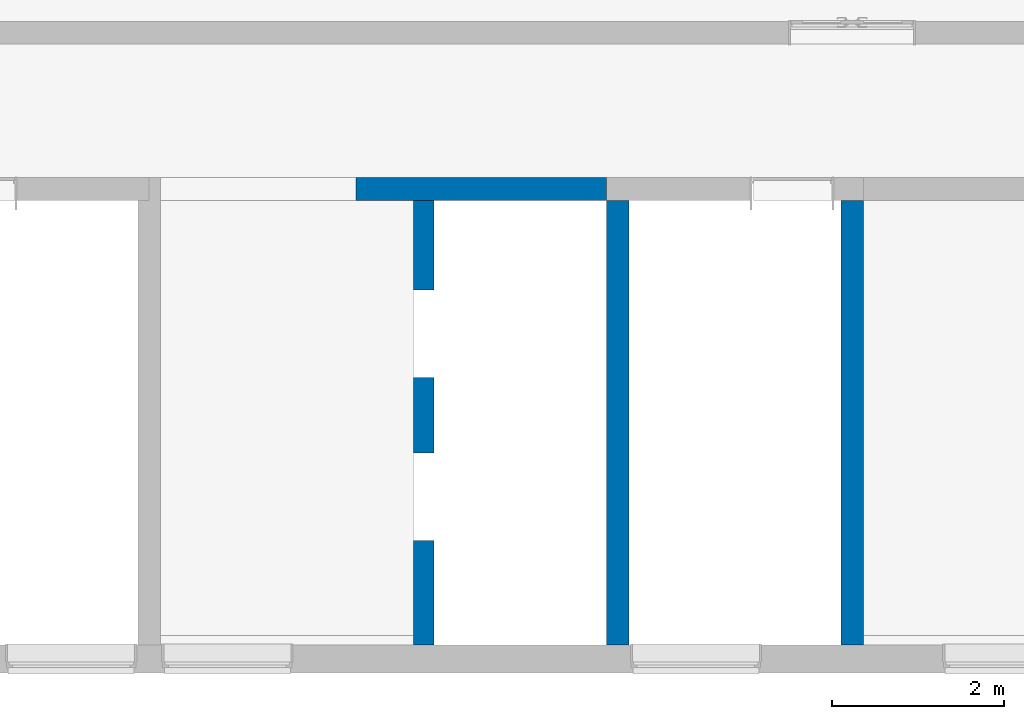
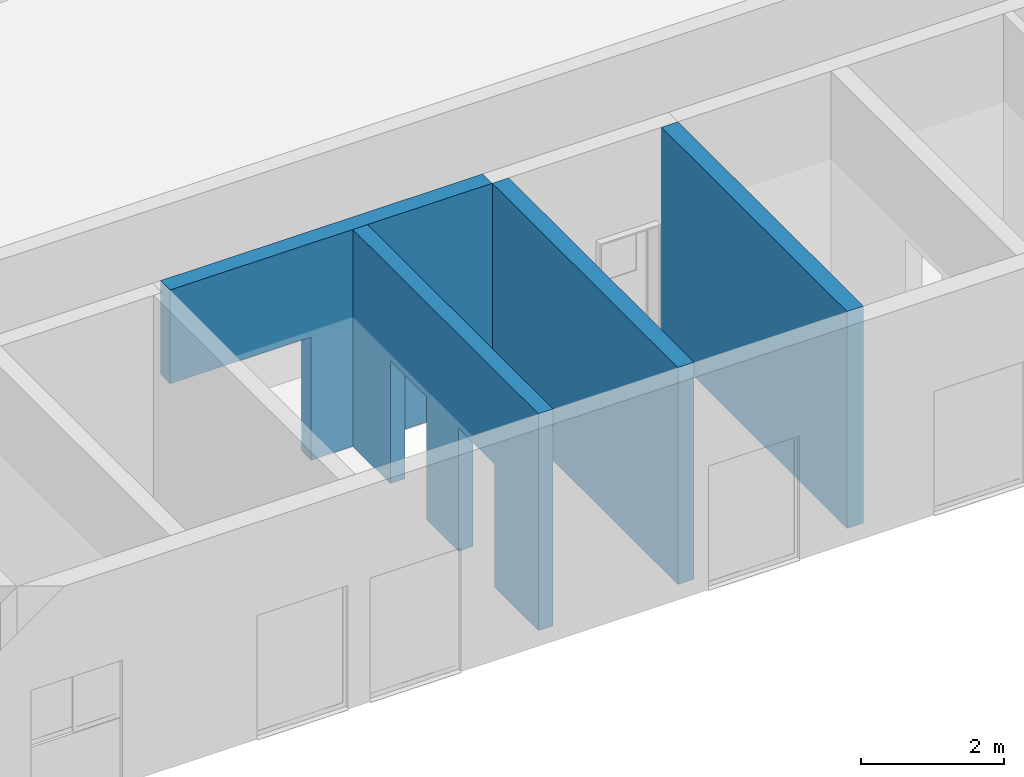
# One storey, part 7 of 15: 4 walls, 4 openings.
"""IFC4X3 building model written with IfcOpenShell, lengths in millimetres."""

from ifc_helpers import new_model, entity, si_unit, converted_unit, derived_unit, direction, frame, frame_2d, origin, place, context, subcontext, project, spatial, rectangle, extrude, material, layer, layer_set, type_object, element, save


model = new_model("IFC4X3")

# Units and contexts
model_context = context("Model", 3, precision=0.01, world=origin(), true_north=direction((6.12303176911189e-17, 1.0)))
body_context = subcontext(model_context, "Body", "Model", "MODEL_VIEW")
ifc_project = project(units=[si_unit("LENGTHUNIT", "METRE", prefix="MILLI"), si_unit("AREAUNIT", "SQUARE_METRE"), si_unit("VOLUMEUNIT", "CUBIC_METRE"), converted_unit("PLANEANGLEUNIT", "DEGREE", entity("IfcPlaneAngleMeasure", 0.0174532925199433), si_unit("PLANEANGLEUNIT", "RADIAN"), dimensions=[0, 0, 0, 0, 0, 0, 0]), si_unit("MASSUNIT", "GRAM", prefix="KILO"), derived_unit("MASSDENSITYUNIT", [(si_unit("MASSUNIT", "GRAM", prefix="KILO"), 1), (si_unit("LENGTHUNIT", "METRE"), -3)]), derived_unit("IONCONCENTRATIONUNIT", [(si_unit("MASSUNIT", "GRAM", prefix="KILO"), 1), (si_unit("LENGTHUNIT", "METRE"), -3)]), derived_unit("MOMENTOFINERTIAUNIT", [(si_unit("LENGTHUNIT", "METRE"), 4)]), si_unit("TIMEUNIT", "SECOND"), si_unit("FREQUENCYUNIT", "HERTZ"), si_unit("THERMODYNAMICTEMPERATUREUNIT", "DEGREE_CELSIUS"), derived_unit("THERMALTRANSMITTANCEUNIT", [(si_unit("MASSUNIT", "GRAM", prefix="KILO"), 1), (si_unit("THERMODYNAMICTEMPERATUREUNIT", "KELVIN"), -1), (si_unit("TIMEUNIT", "SECOND"), -3)]), derived_unit("THERMALCONDUCTANCEUNIT", [(si_unit("MASSUNIT", "GRAM", prefix="KILO"), 1), (si_unit("THERMODYNAMICTEMPERATUREUNIT", "KELVIN"), -1), (si_unit("TIMEUNIT", "SECOND"), -3), (si_unit("LENGTHUNIT", "METRE"), 1)]), derived_unit("VOLUMETRICFLOWRATEUNIT", [(si_unit("LENGTHUNIT", "METRE", prefix="DECI"), 3), (si_unit("TIMEUNIT", "SECOND"), -1)]), derived_unit("MASSFLOWRATEUNIT", [(si_unit("MASSUNIT", "GRAM", prefix="KILO"), 1), (si_unit("TIMEUNIT", "SECOND"), -1)]), derived_unit("ROTATIONALFREQUENCYUNIT", [(si_unit("TIMEUNIT", "SECOND"), -1)]), si_unit("ELECTRICCURRENTUNIT", "AMPERE"), si_unit("ELECTRICVOLTAGEUNIT", "VOLT"), si_unit("POWERUNIT", "WATT"), si_unit("FORCEUNIT", "NEWTON", prefix="KILO"), si_unit("ILLUMINANCEUNIT", "LUX"), si_unit("LUMINOUSFLUXUNIT", "LUMEN"), si_unit("LUMINOUSINTENSITYUNIT", "CANDELA"), si_unit("ENERGYUNIT", "JOULE"), derived_unit("USERDEFINED", [(si_unit("MASSUNIT", "GRAM", prefix="KILO"), -1), (si_unit("LENGTHUNIT", "METRE"), -2), (si_unit("TIMEUNIT", "SECOND"), 3), (si_unit("LUMINOUSFLUXUNIT", "LUMEN"), 1)]), derived_unit("USERDEFINED", [(si_unit("MASSUNIT", "GRAM", prefix="KILO"), 1), (si_unit("TIMEUNIT", "SECOND"), -3), (si_unit("LENGTHUNIT", "METRE"), 3), (si_unit("ELECTRICCURRENTUNIT", "AMPERE"), -2)]), derived_unit("SOUNDPOWERUNIT", [(si_unit("MASSUNIT", "GRAM", prefix="KILO"), 1), (si_unit("TIMEUNIT", "SECOND"), -3), (si_unit("LENGTHUNIT", "METRE"), 2)]), derived_unit("SOUNDPRESSUREUNIT", [(si_unit("MASSUNIT", "GRAM", prefix="KILO"), 1), (si_unit("LENGTHUNIT", "METRE"), -1), (si_unit("TIMEUNIT", "SECOND"), -2)]), derived_unit("LINEARVELOCITYUNIT", [(si_unit("LENGTHUNIT", "METRE"), 1), (si_unit("TIMEUNIT", "SECOND"), -1)]), si_unit("PRESSUREUNIT", "PASCAL"), derived_unit("USERDEFINED", [(si_unit("MASSUNIT", "GRAM", prefix="KILO"), 1), (si_unit("LENGTHUNIT", "METRE"), -2), (si_unit("TIMEUNIT", "SECOND"), -2)]), derived_unit("LINEARFORCEUNIT", [(si_unit("MASSUNIT", "GRAM", prefix="KILO"), 1), (si_unit("TIMEUNIT", "SECOND"), -2)]), derived_unit("PLANARFORCEUNIT", [(si_unit("MASSUNIT", "GRAM", prefix="KILO"), 1), (si_unit("LENGTHUNIT", "METRE"), -1), (si_unit("TIMEUNIT", "SECOND"), -2)]), derived_unit("SPECIFICHEATCAPACITYUNIT", [(si_unit("THERMODYNAMICTEMPERATUREUNIT", "KELVIN"), -1), (si_unit("LENGTHUNIT", "METRE"), 2), (si_unit("TIMEUNIT", "SECOND"), -2)]), derived_unit("HEATFLUXDENSITYUNIT", [(si_unit("MASSUNIT", "GRAM", prefix="KILO"), 1), (si_unit("TIMEUNIT", "SECOND"), -3)]), derived_unit("HEATINGVALUEUNIT", [(si_unit("LENGTHUNIT", "METRE"), 2), (si_unit("TIMEUNIT", "SECOND"), -2)]), derived_unit("VAPORPERMEABILITYUNIT", [(si_unit("LENGTHUNIT", "METRE"), -1), (si_unit("TIMEUNIT", "SECOND"), 1)]), derived_unit("DYNAMICVISCOSITYUNIT", [(si_unit("MASSUNIT", "GRAM", prefix="KILO"), 1), (si_unit("TIMEUNIT", "SECOND"), -1), (si_unit("LENGTHUNIT", "METRE"), -1)]), derived_unit("THERMALEXPANSIONCOEFFICIENTUNIT", [(si_unit("THERMODYNAMICTEMPERATUREUNIT", "KELVIN"), -1)]), derived_unit("MODULUSOFELASTICITYUNIT", [(si_unit("MASSUNIT", "GRAM", prefix="KILO"), 1), (si_unit("LENGTHUNIT", "METRE"), -1), (si_unit("TIMEUNIT", "SECOND"), -2)]), derived_unit("ISOTHERMALMOISTURECAPACITYUNIT", [(si_unit("MASSUNIT", "GRAM", prefix="KILO"), -1), (si_unit("LENGTHUNIT", "METRE"), 3)]), derived_unit("MOISTUREDIFFUSIVITYUNIT", [(si_unit("TIMEUNIT", "SECOND"), -1), (si_unit("LENGTHUNIT", "METRE"), 2)]), derived_unit("AREADENSITYUNIT", [(si_unit("MASSUNIT", "GRAM", prefix="KILO"), 1), (si_unit("LENGTHUNIT", "METRE"), 2)]), derived_unit("MASSPERLENGTHUNIT", [(si_unit("MASSUNIT", "GRAM", prefix="KILO"), 1), (si_unit("LENGTHUNIT", "METRE"), -1)]), derived_unit("THERMALRESISTANCEUNIT", [(si_unit("MASSUNIT", "GRAM", prefix="KILO"), -1), (si_unit("TIMEUNIT", "SECOND"), 3), (si_unit("THERMODYNAMICTEMPERATUREUNIT", "KELVIN"), 1)]), derived_unit("ACCELERATIONUNIT", [(si_unit("LENGTHUNIT", "METRE"), 1), (si_unit("TIMEUNIT", "SECOND"), -2)]), derived_unit("ANGULARVELOCITYUNIT", [(si_unit("TIMEUNIT", "SECOND"), -1), (si_unit("PLANEANGLEUNIT", "RADIAN"), 1)]), derived_unit("LINEARSTIFFNESSUNIT", [(si_unit("MASSUNIT", "GRAM", prefix="KILO"), 1), (si_unit("TIMEUNIT", "SECOND"), -2)]), derived_unit("WARPINGCONSTANTUNIT", [(si_unit("LENGTHUNIT", "METRE"), 6)]), derived_unit("LINEARMOMENTUNIT", [(si_unit("MASSUNIT", "GRAM", prefix="KILO"), 1), (si_unit("LENGTHUNIT", "METRE"), 1), (si_unit("TIMEUNIT", "SECOND"), -2)]), derived_unit("TORQUEUNIT", [(si_unit("MASSUNIT", "GRAM", prefix="KILO"), 1), (si_unit("LENGTHUNIT", "METRE"), 2), (si_unit("TIMEUNIT", "SECOND"), -2)])], contexts=[model_context])

# Site, building, storey
site_placement = place(None, origin())
site = spatial("IfcSite", under=ifc_project, at=site_placement, Name="Default", CompositionType="ELEMENT")
building_placement = place(site_placement, origin())
building = spatial("IfcBuilding", under=site, at=building_placement, Name="事務所ビル", CompositionType="ELEMENT")
storey_placement = place(building_placement, frame((0.0, 0.0, 4300.0)))
storey = spatial("IfcBuildingStorey", under=building, at=storey_placement, Name="2FL", CompositionType="ELEMENT", Elevation=4300.0)

# Walls
ifc_material_1 = material(Name="せっこうボード", Category="一般")
ifc_layer_1 = layer(ifc_material_1, 15.0, Name="せっこうボード", Category="一般")
ifc_material_2 = material(Name="合板", Category="一般")
ifc_layer_2 = layer(ifc_material_2, 12.0, Name="合板", Category="一般")
ifc_material_3 = material(Name="天然木材", Category="一般")
ifc_layer_3 = layer(ifc_material_3, 210.0, Name="天然木材", Category="一般")
ifc_layer_4 = layer(ifc_material_2, 12.0, Name="合板", Category="一般")
ifc_layer_5 = layer(ifc_material_1, 15.0, Name="せっこうボード", Category="一般")
ifc_layer_set_1 = layer_set([ifc_layer_1, ifc_layer_2, ifc_layer_3, ifc_layer_4, ifc_layer_5], Name="標準壁:GB-R15_構造用合板12_木210_構造用合板12_GB-R15")
wall_type_1 = type_object("IfcWallType", Name="標準壁:GB-R15_構造用合板12_木210_構造用合板12_GB-R15", PredefinedType="STANDARD", material=ifc_layer_set_1)
wall_1_placement = place(storey_placement, frame((27300.0, 147.0, 0.0), z_axis=(0.0, 0.0, 1.0), x_axis=(0.0, 1.0, 0.0)))
element("IfcWall", 1, at=wall_1_placement, inside=storey, type_object=wall_type_1, material=ifc_layer_set_1, Name="標準壁:GB-R15_構造用合板12_木210_構造用合板12_GB-R15", ObjectType="標準壁:GB-R15_構造用合板12_木210_構造用合板12_GB-R15", PredefinedType="NOTDEFINED", context=body_context, shape_type="SweptSolid", body=[
    extrude(rectangle(XDim=5181.00000000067, YDim=264.000000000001, at=frame_2d((2590.50000000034, -2.27373675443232e-13), x_axis=(-1.0, 0.0))), origin(), (0.0, 0.0, 1.0), 3700.0),
])
wall_2_placement = place(storey_placement, frame((30030.0, 147.0, 0.0), z_axis=(0.0, 0.0, 1.0), x_axis=(0.0, 1.0, 0.0)))
element("IfcWall", 2, at=wall_2_placement, inside=storey, type_object=wall_type_1, material=ifc_layer_set_1, Name="標準壁:GB-R15_構造用合板12_木210_構造用合板12_GB-R15", ObjectType="標準壁:GB-R15_構造用合板12_木210_構造用合板12_GB-R15", PredefinedType="NOTDEFINED", context=body_context, shape_type="SweptSolid", body=[
    extrude(rectangle(XDim=5181.00000000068, YDim=264.000000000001, at=frame_2d((2590.50000000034, -2.27373675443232e-13), x_axis=(-1.0, 0.0))), origin(), (0.0, 0.0, 1.0), 3700.0),
])

# Wall, openings
wall_3_placement = place(storey_placement, frame((21972.0, 5460.0, 0.0)))
wall_3 = element("IfcWall", 3, at=wall_3_placement, inside=storey, type_object=wall_type_1, material=ifc_layer_set_1, Name="標準壁:GB-R15_構造用合板12_木210_構造用合板12_GB-R15", ObjectType="標準壁:GB-R15_構造用合板12_木210_構造用合板12_GB-R15", PredefinedType="NOTDEFINED", context=body_context, shape_type="SweptSolid", body=[
    extrude(rectangle(XDim=5196.0, YDim=264.000000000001, at=frame_2d((2598.0, -2.1316282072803e-13), x_axis=(-1.0, 0.0))), origin(), (0.0, 0.0, 1.0), 3700.0),
])
opening_1_placement = place(wall_3_placement, frame((-21972.0, -5460.0, 3700.0)))
element("IfcOpeningElement", 4, at=opening_1_placement, cuts=wall_3, Name="標準壁:GB-R15_構造用合板12_木210_構造用合板12_GB-R15", PredefinedType="OPENING", context=body_context, shape_type="SweptSolid", body=[
    extrude(rectangle(XDim=2100.0, YDim=2275.0, at=frame_2d((-2.1600499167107e-12, 0.0), x_axis=(0.0, 1.0))), frame((23109.5, 3804.0, 1050.0), z_axis=(0.0, 1.0, 0.0), x_axis=(1.0, 0.0, 0.0)), (0.0, 0.0, 1.0), 3048.0),
])
opening_2_placement = place(wall_3_placement, frame((0.0, -132.0, 0.0)))
element("IfcOpeningElement", 5, at=opening_2_placement, cuts=wall_3, Name="ドア-開口部:2275 x 2100mm:1", PredefinedType="OPENING", context=body_context, shape_type="SweptSolid", body=[
    extrude(rectangle(XDim=2100.0, YDim=2275.0, at=frame_2d((1050.0, 1137.5), x_axis=(-1.0, 0.0))), frame((0.0, 0.0, 0.0), z_axis=(0.0, 1.0, 0.0), x_axis=(0.0, 0.0, 1.0)), (0.0, 0.0, 1.0), 264.0),
])

ifc_layer_6 = layer(ifc_material_3, 210.0, Name="天然木材", Category="一般")
ifc_material_4 = material(Name="<Unnamed>")
ifc_layer_7 = layer(ifc_material_4, 12.0, Name="Layer")
ifc_layer_8 = layer(ifc_material_4, 15.0, Name="Layer")
ifc_layer_set_2 = layer_set([ifc_layer_6, ifc_layer_7, ifc_layer_8], Name="標準壁:(内壁)木210/構造用合板12/GB-R15)/*")
wall_type_2 = type_object("IfcWallType", Name="標準壁:(内壁)木210/構造用合板12/GB-R15)/*", PredefinedType="STANDARD", material=ifc_layer_set_2)
wall_4_placement = place(storey_placement, frame((25038.5, 147.0, 0.0), z_axis=(0.0, 0.0, 1.0), x_axis=(0.0, 1.0, 0.0)))
wall_4 = element("IfcWall", 6, at=wall_4_placement, inside=storey, type_object=wall_type_2, material=ifc_layer_set_2, Name="標準壁:(内壁)木210/構造用合板12/GB-R15)/*", ObjectType="標準壁:(内壁)木210/構造用合板12/GB-R15)/*", PredefinedType="NOTDEFINED", context=body_context, shape_type="SweptSolid", body=[
    extrude(rectangle(XDim=5181.00000000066, YDim=236.999999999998, at=frame_2d((2590.50000000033, -2.20268248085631e-13), x_axis=(-1.0, 0.0))), origin(), (0.0, 0.0, 1.0), 3700.0),
])
opening_3_placement = place(wall_4_placement, frame((-147.0, 25038.5, 0.0)))
element("IfcOpeningElement", 7, at=opening_3_placement, cuts=wall_4, Name="標準壁:(内壁)木210/構造用合板12/GB-R15)/*", PredefinedType="OPENING", context=body_context, shape_type="SweptSolid", body=[
    extrude(rectangle(XDim=2100.0, YDim=1016.99999999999, at=frame_2d((0.0, -2.8421709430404e-13), x_axis=(1.0, 0.0))), frame((3773.37499999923, -26444.0, 1050.0), z_axis=(0.0, 1.0, 0.0), x_axis=(0.0, 0.0, -1.0)), (0.0, 0.0, 1.0), 3048.0),
])
opening_4_placement = place(wall_4_placement, frame((-147.0, 25038.5, 0.0)))
element("IfcOpeningElement", 8, at=opening_4_placement, cuts=wall_4, Name="標準壁:(内壁)木210/構造用合板12/GB-R15)/*", PredefinedType="OPENING", context=body_context, shape_type="SweptSolid", body=[
    extrude(rectangle(XDim=2100.0, YDim=1016.99999999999, at=frame_2d((0.0, 0.0), x_axis=(0.0, 1.0))), frame((1873.37499999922, -26444.0, 1050.0), z_axis=(0.0, 1.0, 0.0), x_axis=(1.0, 0.0, 0.0)), (0.0, 0.0, 1.0), 3048.0),
])

save(model, "model.ifc")
